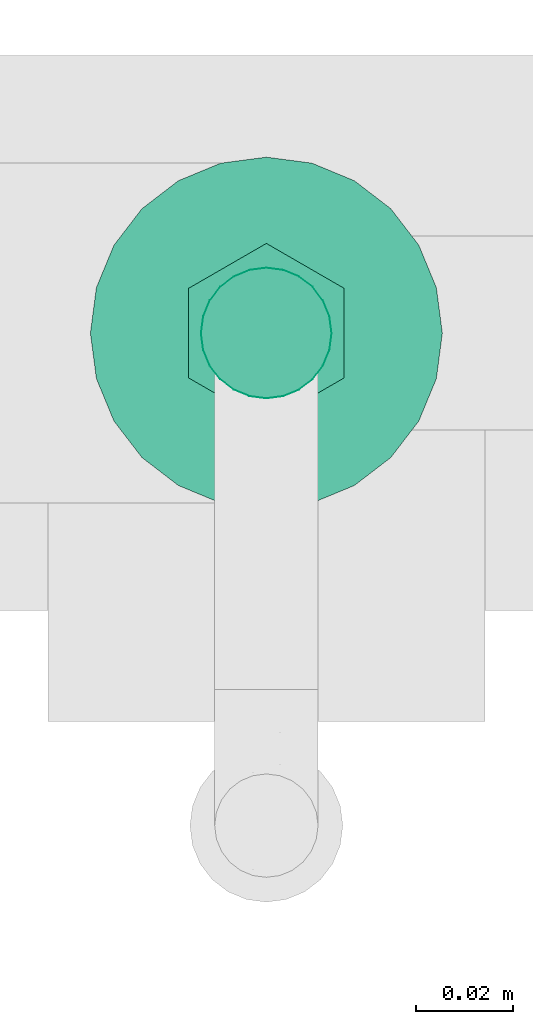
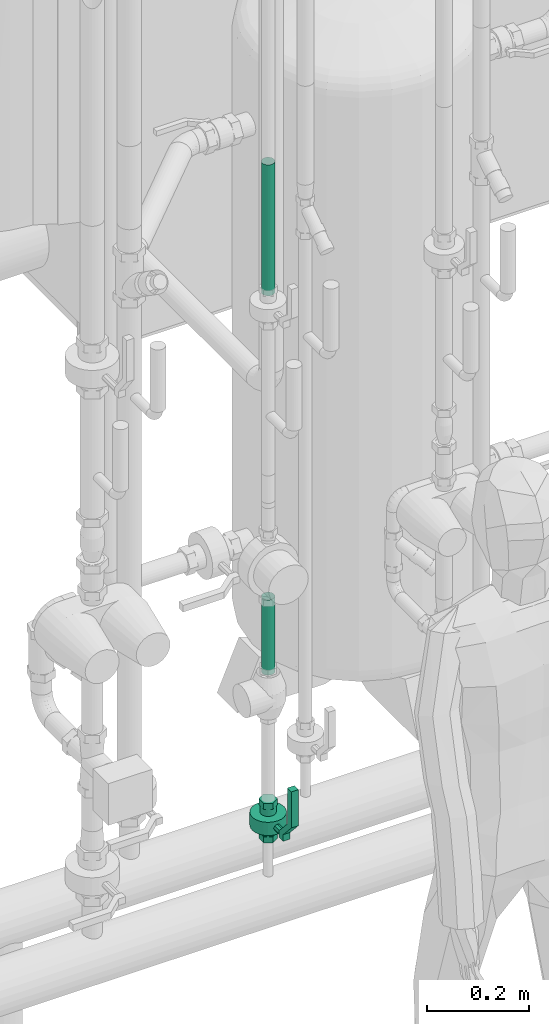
# One storey, part 269 of 374: 2 flow segments, 1 flow controller.
"""IFC2X3 building model written with IfcOpenShell, lengths in metres."""

from ifc_helpers import new_model, si_unit, direction, origin, place, context, subcontext, project, spatial, open_shell, surface_model, source, transform, mapped, element, save


model = new_model("IFC2X3")

# Units and contexts
model_context = context("Model", 3, precision=1e-05, world=origin(), true_north=direction((-0.4480736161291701, 0.8939966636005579)))
body_context = subcontext(model_context, "Body", "Model", "MODEL_VIEW")
ifc_project = project(units=[si_unit("LENGTHUNIT", "METRE"), si_unit("AREAUNIT", "SQUARE_METRE"), si_unit("VOLUMEUNIT", "CUBIC_METRE"), si_unit("PLANEANGLEUNIT", "RADIAN"), si_unit("THERMODYNAMICTEMPERATUREUNIT", "KELVIN"), si_unit("MASSUNIT", "GRAM", prefix="KILO"), si_unit("TIMEUNIT", "SECOND")], contexts=[model_context])

# Site, building, storey
site_placement = place(None, origin())
site = spatial("IfcSite", under=ifc_project, at=site_placement, Name="Site 1", CompositionType="ELEMENT")
building_placement = place(site_placement, origin())
building = spatial("IfcBuilding", under=site, at=building_placement, Name="Undefined", CompositionType="ELEMENT")
storey_placement = place(building_placement, origin())
storey = spatial("IfcBuildingStorey", under=building, at=storey_placement, Name="Rez de chauss\x8ee", CompositionType="ELEMENT", Elevation=0.0)

# Flow controller
shared_shape_1 = source(origin(), body_context, "Body", "SurfaceModel", [
    surface_model("IfcFaceBasedSurfaceModel", [(0.0, 0.015999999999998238, 0.0), (0.0, 0.0, 0.0), (0.016000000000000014, 0.0, 0.0), (0.016000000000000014, 0.015999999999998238, 0.0), (0.0, 0.0, 0.016000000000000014), (0.016000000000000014, 0.0, 0.016000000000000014), (0.0, 0.015999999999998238, 0.016000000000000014), (0.016000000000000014, 0.015999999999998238, 0.016000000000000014), (0.0, 0.051333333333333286, 0.04800000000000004), (0.016000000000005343, 0.051333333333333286, 0.04800000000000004), (0.0, 0.13800000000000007, 0.04800000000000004), (0.016000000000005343, 0.13800000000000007, 0.04800000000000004), (0.0, 0.13800000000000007, 0.03200000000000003), (0.016000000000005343, 0.13800000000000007, 0.03200000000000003), (0.0, 0.051333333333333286, 0.03200000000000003), (0.016000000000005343, 0.051333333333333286, 0.03200000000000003), (0.02400000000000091, -0.03950000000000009, -0.06623760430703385), (0.02400000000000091, -0.03950000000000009, -0.04776239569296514), (0.02400000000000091, -0.025000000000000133, -0.04776239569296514), (0.02400000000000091, -0.025000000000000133, -0.06623760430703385), (0.008000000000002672, -0.03950000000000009, -0.07547520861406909), (0.008000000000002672, -0.025000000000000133, -0.07547520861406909), (-0.007999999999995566, -0.03950000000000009, -0.06623760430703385), (-0.007999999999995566, -0.025000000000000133, -0.06623760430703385), (-0.007999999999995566, -0.03950000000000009, -0.04776239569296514), (-0.007999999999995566, -0.025000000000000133, -0.04776239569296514), (0.008000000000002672, -0.03950000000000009, -0.03852479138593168), (0.008000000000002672, -0.025000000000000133, -0.03852479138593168), (-0.007999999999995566, -0.025000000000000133, -0.057000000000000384), (-0.007454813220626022, -0.025000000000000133, -0.05285889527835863), (-0.007454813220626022, -0.007833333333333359, -0.05285889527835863), (-0.007999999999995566, -0.007833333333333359, -0.057000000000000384), (-0.005856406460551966, -0.025000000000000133, -0.04899999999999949), (-0.005856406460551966, -0.007833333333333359, -0.04899999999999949), (-0.0033137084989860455, -0.025000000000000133, -0.04568629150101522), (-0.0033137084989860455, -0.007833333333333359, -0.04568629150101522), (0.0, -0.025000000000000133, -0.0431435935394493), (0.0, -0.007833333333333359, -0.0431435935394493), (0.003858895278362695, -0.025000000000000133, -0.04154518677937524), (0.003858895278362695, -0.007833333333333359, -0.04154518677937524), (0.008000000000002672, -0.025000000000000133, -0.04100000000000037), (0.008000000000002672, -0.007833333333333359, -0.04100000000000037), (0.012141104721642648, -0.025000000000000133, -0.04154518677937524), (0.012141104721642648, -0.007833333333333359, -0.04154518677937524), (0.016000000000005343, -0.025000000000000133, -0.0431435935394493), (0.016000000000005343, -0.007833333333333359, -0.0431435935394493), (0.01931370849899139, -0.025000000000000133, -0.04568629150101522), (0.01931370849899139, -0.007833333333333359, -0.04568629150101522), (0.02185640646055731, -0.025000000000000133, -0.04899999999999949), (0.02185640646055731, -0.007833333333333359, -0.04899999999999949), (0.023454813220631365, -0.025000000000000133, -0.05285889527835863), (0.023454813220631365, -0.007833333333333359, -0.05285889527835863), (0.02400000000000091, -0.025000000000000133, -0.057000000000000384), (0.02400000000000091, -0.007833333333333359, -0.057000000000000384), (0.023454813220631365, -0.025000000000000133, -0.06114110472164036), (0.023454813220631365, -0.007833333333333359, -0.06114110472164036), (0.02185640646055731, -0.025000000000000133, -0.0649999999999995), (0.02185640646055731, -0.007833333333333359, -0.0649999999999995), (0.01931370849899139, -0.025000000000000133, -0.06831370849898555), (0.01931370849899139, -0.007833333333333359, -0.06831370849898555), (0.016000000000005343, -0.025000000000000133, -0.07085640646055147), (0.016000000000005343, -0.007833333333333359, -0.07085640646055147), (0.012141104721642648, -0.025000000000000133, -0.07245481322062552), (0.012141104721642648, -0.007833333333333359, -0.07245481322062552), (0.008000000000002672, -0.025000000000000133, -0.0730000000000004), (0.008000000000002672, -0.007833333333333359, -0.0730000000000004), (0.003858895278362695, -0.025000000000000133, -0.07245481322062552), (0.003858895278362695, -0.007833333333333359, -0.07245481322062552), (0.0, -0.025000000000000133, -0.07085640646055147), (0.0, -0.007833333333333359, -0.07085640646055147), (-0.0033137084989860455, -0.025000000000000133, -0.06831370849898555), (-0.0033137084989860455, -0.007833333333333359, -0.06831370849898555), (-0.005856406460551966, -0.025000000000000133, -0.0649999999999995), (-0.005856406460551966, -0.007833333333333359, -0.0649999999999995), (-0.007454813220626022, -0.025000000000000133, -0.06114110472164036), (-0.007454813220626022, -0.007833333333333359, -0.06114110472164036), (-0.028249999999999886, -0.007833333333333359, -0.057000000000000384), (-0.027014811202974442, -0.007833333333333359, -0.04761780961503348), (-0.027014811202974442, 0.02383333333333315, -0.04761780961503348), (-0.028249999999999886, 0.02383333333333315, -0.057000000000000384), (-0.02339342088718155, -0.007833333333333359, -0.038874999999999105), (-0.02339342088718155, 0.02383333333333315, -0.038874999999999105), (-0.017632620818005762, -0.007833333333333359, -0.03136737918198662), (-0.017632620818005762, 0.02383333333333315, -0.03136737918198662), (-0.010124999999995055, -0.007833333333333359, -0.025606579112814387), (-0.010124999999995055, 0.02383333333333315, -0.025606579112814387), (-0.0013821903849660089, -0.007833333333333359, -0.021985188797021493), (-0.0013821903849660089, 0.02383333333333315, -0.021985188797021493), (0.008000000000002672, -0.007833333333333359, -0.020749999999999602), (0.008000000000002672, 0.02383333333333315, -0.020749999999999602), (0.017382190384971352, -0.007833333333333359, -0.021985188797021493), (0.017382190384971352, 0.02383333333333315, -0.021985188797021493), (0.026125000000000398, -0.007833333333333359, -0.025606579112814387), (0.026125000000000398, 0.02383333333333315, -0.025606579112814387), (0.033632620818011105, -0.007833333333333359, -0.03136737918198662), (0.033632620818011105, 0.02383333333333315, -0.03136737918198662), (0.03939342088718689, -0.007833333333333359, -0.038874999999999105), (0.03939342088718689, 0.02383333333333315, -0.038874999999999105), (0.043014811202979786, -0.007833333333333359, -0.04761780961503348), (0.043014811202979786, 0.02383333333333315, -0.04761780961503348), (0.04425000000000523, -0.007833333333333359, -0.057000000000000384), (0.04425000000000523, 0.02383333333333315, -0.057000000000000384), (0.043014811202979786, -0.007833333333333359, -0.06638219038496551), (0.043014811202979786, 0.02383333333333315, -0.06638219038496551), (0.03939342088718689, -0.007833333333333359, -0.07512499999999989), (0.03939342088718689, 0.02383333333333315, -0.07512499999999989), (0.033632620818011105, -0.007833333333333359, -0.08263262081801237), (0.033632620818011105, 0.02383333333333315, -0.08263262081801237), (0.026125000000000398, -0.007833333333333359, -0.0883934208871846), (0.026125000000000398, 0.02383333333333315, -0.0883934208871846), (0.017382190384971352, -0.007833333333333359, -0.0920148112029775), (0.017382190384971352, 0.02383333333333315, -0.0920148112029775), (0.008000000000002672, -0.007833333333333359, -0.09324999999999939), (0.008000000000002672, 0.02383333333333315, -0.09324999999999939), (-0.0013821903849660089, -0.007833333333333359, -0.0920148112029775), (-0.0013821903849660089, 0.02383333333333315, -0.0920148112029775), (-0.010124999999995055, -0.007833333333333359, -0.0883934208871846), (-0.010124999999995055, 0.02383333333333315, -0.0883934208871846), (-0.017632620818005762, -0.007833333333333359, -0.08263262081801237), (-0.017632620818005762, 0.02383333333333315, -0.08263262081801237), (-0.02339342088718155, -0.007833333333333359, -0.07512499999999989), (-0.02339342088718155, 0.02383333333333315, -0.07512499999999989), (-0.027014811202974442, -0.007833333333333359, -0.06638219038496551), (-0.027014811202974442, 0.02383333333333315, -0.06638219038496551), (0.008000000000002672, -0.007833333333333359, -0.057000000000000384), (0.008000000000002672, 0.02383333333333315, -0.057000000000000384), (-0.007999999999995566, 0.02383333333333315, -0.057000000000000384), (-0.007454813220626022, 0.02383333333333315, -0.05285889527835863), (-0.007454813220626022, 0.040999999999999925, -0.05285889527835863), (-0.007999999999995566, 0.040999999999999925, -0.057000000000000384), (-0.005856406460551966, 0.02383333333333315, -0.04899999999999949), (-0.005856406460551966, 0.040999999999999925, -0.04899999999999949), (-0.0033137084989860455, 0.02383333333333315, -0.04568629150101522), (-0.0033137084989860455, 0.040999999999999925, -0.04568629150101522), (0.0, 0.02383333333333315, -0.0431435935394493), (0.0, 0.040999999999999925, -0.0431435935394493), (0.003858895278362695, 0.02383333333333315, -0.04154518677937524), (0.003858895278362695, 0.040999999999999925, -0.04154518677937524), (0.008000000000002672, 0.02383333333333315, -0.04100000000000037), (0.008000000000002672, 0.040999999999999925, -0.04100000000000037), (0.012141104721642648, 0.02383333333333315, -0.04154518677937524), (0.012141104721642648, 0.040999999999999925, -0.04154518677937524), (0.016000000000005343, 0.02383333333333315, -0.0431435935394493), (0.016000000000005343, 0.040999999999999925, -0.0431435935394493), (0.01931370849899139, 0.02383333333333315, -0.04568629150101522), (0.01931370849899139, 0.040999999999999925, -0.04568629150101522), (0.02185640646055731, 0.02383333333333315, -0.04899999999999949), (0.02185640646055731, 0.040999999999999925, -0.04899999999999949), (0.023454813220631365, 0.02383333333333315, -0.05285889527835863), (0.023454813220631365, 0.040999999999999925, -0.05285889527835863), (0.02400000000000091, 0.02383333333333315, -0.057000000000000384), (0.02400000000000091, 0.040999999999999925, -0.057000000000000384), (0.023454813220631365, 0.02383333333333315, -0.06114110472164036), (0.023454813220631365, 0.040999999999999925, -0.06114110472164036), (0.02185640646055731, 0.02383333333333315, -0.0649999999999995), (0.02185640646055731, 0.040999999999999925, -0.0649999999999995), (0.01931370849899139, 0.02383333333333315, -0.06831370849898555), (0.01931370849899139, 0.040999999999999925, -0.06831370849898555), (0.016000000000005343, 0.02383333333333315, -0.07085640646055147), (0.016000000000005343, 0.040999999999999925, -0.07085640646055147), (0.012141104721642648, 0.02383333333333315, -0.07245481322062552), (0.012141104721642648, 0.040999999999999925, -0.07245481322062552), (0.008000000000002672, 0.02383333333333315, -0.0730000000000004), (0.008000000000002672, 0.040999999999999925, -0.0730000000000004), (0.003858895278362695, 0.02383333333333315, -0.07245481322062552), (0.003858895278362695, 0.040999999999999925, -0.07245481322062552), (0.0, 0.02383333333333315, -0.07085640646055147), (0.0, 0.040999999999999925, -0.07085640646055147), (-0.0033137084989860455, 0.02383333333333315, -0.06831370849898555), (-0.0033137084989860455, 0.040999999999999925, -0.06831370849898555), (-0.005856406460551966, 0.02383333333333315, -0.0649999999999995), (-0.005856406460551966, 0.040999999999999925, -0.0649999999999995), (-0.007454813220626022, 0.02383333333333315, -0.06114110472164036), (-0.007454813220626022, 0.040999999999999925, -0.06114110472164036), (0.02400000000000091, 0.040999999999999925, -0.06623760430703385), (0.02400000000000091, 0.040999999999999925, -0.04776239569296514), (0.02400000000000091, 0.05549999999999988, -0.04776239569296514), (0.02400000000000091, 0.05549999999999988, -0.06623760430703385), (0.008000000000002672, 0.040999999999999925, -0.07547520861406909), (0.008000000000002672, 0.05549999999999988, -0.07547520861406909), (-0.007999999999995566, 0.040999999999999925, -0.06623760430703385), (-0.007999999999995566, 0.05549999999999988, -0.06623760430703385), (-0.007999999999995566, 0.040999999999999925, -0.04776239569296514), (-0.007999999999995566, 0.05549999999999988, -0.04776239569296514), (0.008000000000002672, 0.040999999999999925, -0.03852479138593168), (0.008000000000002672, 0.05549999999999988, -0.03852479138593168), (0.008000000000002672, 0.015999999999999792, -0.057000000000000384), (0.002343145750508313, 0.013656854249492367, -0.057000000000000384), (0.002343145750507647, 0.013656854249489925, 0.0), (0.008000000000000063, 0.015999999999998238, 0.0), (0.0, 0.007999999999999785, -0.057000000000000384), (0.0, 0.008, 0.0), (0.002343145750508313, 0.002343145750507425, -0.057000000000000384), (0.002343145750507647, 0.002343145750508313, 0.0), (0.008000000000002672, 0.0, -0.057000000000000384), (0.008000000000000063, 0.0, 0.0), (0.01365685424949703, 0.002343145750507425, -0.057000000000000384), (0.013656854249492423, 0.002343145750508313, 0.0), (0.016000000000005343, 0.007999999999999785, -0.057000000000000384), (0.016000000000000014, 0.008000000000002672, 0.0), (0.01365685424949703, 0.013656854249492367, -0.057000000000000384), (0.013656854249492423, 0.013656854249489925, 0.0)], [open_shell([[[0, 1, 2, 3]], [[1, 4, 5, 2]], [[4, 6, 7, 5]], [[6, 8, 9, 7]], [[8, 10, 11, 9]], [[10, 12, 13, 11]], [[12, 14, 15, 13]], [[14, 0, 3, 15]], [[3, 7, 2]], [[7, 3, 9]], [[15, 9, 3]], [[9, 15, 11]], [[13, 11, 15]], [[5, 2, 7]], [[1, 6, 0]], [[8, 0, 6]], [[0, 8, 14]], [[10, 14, 8]], [[14, 10, 12]], [[6, 1, 4]], [[16, 17, 18, 19]], [[20, 16, 19, 21]], [[22, 20, 21, 23]], [[24, 22, 23, 25]], [[26, 24, 25, 27]], [[17, 26, 27, 18]], [[17, 16, 20]], [[17, 20, 22]], [[17, 22, 24]], [[17, 24, 26]], [[18, 21, 19]], [[18, 23, 21]], [[18, 25, 23]], [[18, 27, 25]], [[28, 29, 30, 31]], [[29, 32, 33, 30]], [[32, 34, 35, 33]], [[34, 36, 37, 35]], [[36, 38, 39, 37]], [[38, 40, 41, 39]], [[40, 42, 43, 41]], [[42, 44, 45, 43]], [[44, 46, 47, 45]], [[46, 48, 49, 47]], [[48, 50, 51, 49]], [[50, 52, 53, 51]], [[52, 54, 55, 53]], [[54, 56, 57, 55]], [[56, 58, 59, 57]], [[58, 60, 61, 59]], [[60, 62, 63, 61]], [[62, 64, 65, 63]], [[64, 66, 67, 65]], [[66, 68, 69, 67]], [[68, 70, 71, 69]], [[70, 72, 73, 71]], [[72, 74, 75, 73]], [[74, 28, 31, 75]], [[76, 77, 78, 79]], [[77, 80, 81, 78]], [[80, 82, 83, 81]], [[82, 84, 85, 83]], [[84, 86, 87, 85]], [[86, 88, 89, 87]], [[88, 90, 91, 89]], [[90, 92, 93, 91]], [[92, 94, 95, 93]], [[94, 96, 97, 95]], [[96, 98, 99, 97]], [[98, 100, 101, 99]], [[100, 102, 103, 101]], [[102, 104, 105, 103]], [[104, 106, 107, 105]], [[106, 108, 109, 107]], [[108, 110, 111, 109]], [[110, 112, 113, 111]], [[112, 114, 115, 113]], [[114, 116, 117, 115]], [[116, 118, 119, 117]], [[118, 120, 121, 119]], [[120, 122, 123, 121]], [[122, 76, 79, 123]], [[124, 77, 76]], [[124, 80, 77]], [[124, 82, 80]], [[124, 84, 82]], [[124, 86, 84]], [[124, 88, 86]], [[124, 90, 88]], [[124, 92, 90]], [[124, 94, 92]], [[124, 96, 94]], [[124, 98, 96]], [[124, 100, 98]], [[124, 102, 100]], [[124, 104, 102]], [[124, 106, 104]], [[124, 108, 106]], [[124, 110, 108]], [[124, 112, 110]], [[124, 114, 112]], [[124, 116, 114]], [[124, 118, 116]], [[124, 120, 118]], [[124, 122, 120]], [[124, 76, 122]], [[125, 123, 79]], [[125, 121, 123]], [[125, 119, 121]], [[125, 117, 119]], [[125, 115, 117]], [[125, 113, 115]], [[125, 111, 113]], [[125, 109, 111]], [[125, 107, 109]], [[125, 105, 107]], [[125, 103, 105]], [[125, 101, 103]], [[125, 99, 101]], [[125, 97, 99]], [[125, 95, 97]], [[125, 93, 95]], [[125, 91, 93]], [[125, 89, 91]], [[125, 87, 89]], [[125, 85, 87]], [[125, 83, 85]], [[125, 81, 83]], [[125, 78, 81]], [[125, 79, 78]], [[126, 127, 128, 129]], [[127, 130, 131, 128]], [[130, 132, 133, 131]], [[132, 134, 135, 133]], [[134, 136, 137, 135]], [[136, 138, 139, 137]], [[138, 140, 141, 139]], [[140, 142, 143, 141]], [[142, 144, 145, 143]], [[144, 146, 147, 145]], [[146, 148, 149, 147]], [[148, 150, 151, 149]], [[150, 152, 153, 151]], [[152, 154, 155, 153]], [[154, 156, 157, 155]], [[156, 158, 159, 157]], [[158, 160, 161, 159]], [[160, 162, 163, 161]], [[162, 164, 165, 163]], [[164, 166, 167, 165]], [[166, 168, 169, 167]], [[168, 170, 171, 169]], [[170, 172, 173, 171]], [[172, 126, 129, 173]], [[174, 175, 176, 177]], [[178, 174, 177, 179]], [[180, 178, 179, 181]], [[182, 180, 181, 183]], [[184, 182, 183, 185]], [[175, 184, 185, 176]], [[175, 174, 178]], [[175, 178, 180]], [[175, 180, 182]], [[175, 182, 184]], [[176, 179, 177]], [[176, 181, 179]], [[176, 183, 181]], [[176, 185, 183]], [[186, 187, 188, 189]], [[187, 190, 191, 188]], [[190, 192, 193, 191]], [[192, 194, 195, 193]], [[194, 196, 197, 195]], [[196, 198, 199, 197]], [[198, 200, 201, 199]], [[200, 186, 189, 201]]])]),
])
flow_controller_placement = place(storey_placement, origin())
element("IfcFlowController", 1, at=flow_controller_placement, inside=storey, Name="Robinet à boisseau sphérique", ObjectType="Robinet à boisseau sphérique", context=body_context, shape_type="MappedRepresentation", body=[
    mapped(shared_shape_1, transform((52.849562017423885, 10.661037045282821, 0.4821500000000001), x_axis=(1.0, 0.0, 0.0), y_axis=(0.0, 0.0, 1.0), z_axis=(0.0, -1.0, 0.0))),
])

# Flow segments
shared_shape_2 = source(origin(), body_context, "Body", "SurfaceModel", [
    surface_model("IfcFaceBasedSurfaceModel", [(0.0, 0.0035111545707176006, 0.0), (0.0, 0.0, 0.0), (0.18103703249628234, 0.0, 4.4408921e-16), (0.18103703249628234, 0.003511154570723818, -1.33226763e-15), (0.0, -0.003391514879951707, -0.0009087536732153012), (0.18103703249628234, -0.0033915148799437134, -0.000908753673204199), (0.0, -0.006432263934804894, -0.0026643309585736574), (0.18103703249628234, -0.006432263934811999, -0.0026643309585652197), (0.0, -0.00891502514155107, -0.005147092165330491), (0.18103703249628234, -0.008915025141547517, -0.005147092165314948), (0.0, -0.010670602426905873, -0.008187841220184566), (0.18103703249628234, -0.010670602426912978, -0.008187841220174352), (0.0, -0.011579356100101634, -0.01157935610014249), (0.18103703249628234, -0.011579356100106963, -0.011579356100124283), (0.0, -0.011579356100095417, -0.015090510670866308), (0.18103703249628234, -0.011579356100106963, -0.01509051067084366), (0.0, -0.010670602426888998, -0.018482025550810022), (0.18103703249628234, -0.010670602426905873, -0.01848202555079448), (0.0, -0.008915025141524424, -0.021522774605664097), (0.18103703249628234, -0.008915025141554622, -0.02152277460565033), (0.0, -0.006432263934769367, -0.02400553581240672), (0.18103703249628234, -0.006432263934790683, -0.02400553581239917), (0.0, -0.0033915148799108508, -0.025761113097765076), (0.18103703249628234, -0.0033915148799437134, -0.02576111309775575), (0.0, 4.2632564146e-14, -0.026669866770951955), (0.18103703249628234, 1.4210854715e-14, -0.026669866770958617), (0.0, 0.0035111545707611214, -0.026669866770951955), (0.18103703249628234, 0.0035111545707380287, -0.026669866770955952), (0.0, 0.006902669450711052, -0.02576111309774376), (0.18103703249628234, 0.006902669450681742, -0.025761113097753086), (0.0, 0.00994341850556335, -0.024005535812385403), (0.18103703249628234, 0.009943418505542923, -0.02400553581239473), (0.0, 0.012426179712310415, -0.02152277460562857), (0.18103703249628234, 0.012426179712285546, -0.021522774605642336), (0.0, 0.014181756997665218, -0.018482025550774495), (0.18103703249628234, 0.014181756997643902, -0.01848202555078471), (0.0, 0.015090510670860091, -0.01509051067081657), (0.18103703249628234, 0.015090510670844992, -0.015090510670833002), (0.0, 0.015090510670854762, -0.011579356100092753), (0.18103703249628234, 0.015090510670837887, -0.011579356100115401), (0.0, 0.014181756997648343, -0.00818784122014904), (0.18103703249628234, 0.014181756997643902, -0.008187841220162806), (0.0, 0.012426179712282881, -0.005147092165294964), (0.18103703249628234, 0.012426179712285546, -0.005147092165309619), (0.0, 0.009943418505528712, -0.002664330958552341), (0.18103703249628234, 0.009943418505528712, -0.0026643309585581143), (0.0, 0.006902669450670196, -0.0009087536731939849), (0.18103703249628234, 0.006902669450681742, -0.0009087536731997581)], [open_shell([[[0, 1, 2, 3]], [[1, 4, 5, 2]], [[4, 6, 7, 5]], [[6, 8, 9, 7]], [[8, 10, 11, 9]], [[10, 12, 13, 11]], [[12, 14, 15, 13]], [[14, 16, 17, 15]], [[16, 18, 19, 17]], [[18, 20, 21, 19]], [[20, 22, 23, 21]], [[22, 24, 25, 23]], [[24, 26, 27, 25]], [[26, 28, 29, 27]], [[28, 30, 31, 29]], [[30, 32, 33, 31]], [[32, 34, 35, 33]], [[34, 36, 37, 35]], [[36, 38, 39, 37]], [[38, 40, 41, 39]], [[40, 42, 43, 41]], [[42, 44, 45, 43]], [[44, 46, 47, 45]], [[46, 0, 3, 47]]])]),
])
flow_segment_1_placement = place(storey_placement, origin())
element("IfcFlowSegment", 2, at=flow_segment_1_placement, inside=storey, Name="Tube acier d'après DIN 2448", ObjectType="Tube acier d'après DIN 2448", context=body_context, shape_type="MappedRepresentation", body=[
    mapped(shared_shape_2, transform((52.86104313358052, 10.705045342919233, 0.8434629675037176), x_axis=(0.0, 0.0, 1.0), y_axis=(-0.9914448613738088, -0.13052619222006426, 0.0), z_axis=(0.13052619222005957, -0.9914448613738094, 0.0))),
])
shared_shape_3 = source(origin(), body_context, "Body", "SurfaceModel", [
    surface_model("IfcFaceBasedSurfaceModel", [(0.0, 0.0035111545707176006, 0.0), (0.0, 0.0, 0.0), (0.31453882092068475, 1.776356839e-15, 7.105427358e-15), (0.31453882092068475, 0.003511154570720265, 7.105427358e-15), (0.0, -0.003391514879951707, -0.0009087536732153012), (0.31453882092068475, -0.0033915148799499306, -0.0009087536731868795), (0.0, -0.006432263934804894, -0.0026643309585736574), (0.31453882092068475, -0.00643226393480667, -0.0026643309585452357), (0.0, -0.00891502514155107, -0.005147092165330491), (0.31453882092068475, -0.008915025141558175, -0.00514709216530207), (0.0, -0.010670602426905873, -0.008187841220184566), (0.31453882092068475, -0.01067060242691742, -0.00818784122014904), (0.0, -0.011579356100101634, -0.01157935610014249), (0.31453882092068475, -0.01157935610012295, -0.011579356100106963), (0.0, -0.011579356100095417, -0.015090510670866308), (0.31453882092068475, -0.01157935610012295, -0.015090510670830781), (0.0, -0.010670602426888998, -0.018482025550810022), (0.31453882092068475, -0.010670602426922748, -0.01848202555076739), (0.0, -0.008915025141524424, -0.021522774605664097), (0.31453882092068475, -0.008915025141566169, -0.021522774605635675), (0.0, -0.006432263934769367, -0.02400553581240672), (0.31453882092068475, -0.006432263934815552, -0.024005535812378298), (0.0, -0.0033915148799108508, -0.025761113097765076), (0.31453882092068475, -0.0033915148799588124, -0.02576111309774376), (0.0, 4.2632564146e-14, -0.026669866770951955), (0.31453882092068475, -9.769962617e-15, -0.02666986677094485), (0.0, 0.0035111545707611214, -0.026669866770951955), (0.31453882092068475, 0.003511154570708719, -0.026669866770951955), (0.0, 0.006902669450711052, -0.02576111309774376), (0.31453882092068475, 0.006902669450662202, -0.02576111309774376), (0.0, 0.00994341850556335, -0.024005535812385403), (0.31453882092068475, 0.009943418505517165, -0.02400553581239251), (0.0, 0.012426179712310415, -0.02152277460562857), (0.31453882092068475, 0.012426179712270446, -0.021522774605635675), (0.0, 0.014181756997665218, -0.018482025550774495), (0.31453882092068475, 0.014181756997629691, -0.018482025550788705), (0.0, 0.015090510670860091, -0.01509051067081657), (0.31453882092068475, 0.015090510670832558, -0.015090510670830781), (0.0, 0.015090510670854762, -0.011579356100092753), (0.31453882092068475, 0.015090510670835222, -0.011579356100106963), (0.0, 0.014181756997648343, -0.00818784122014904), (0.31453882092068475, 0.01418175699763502, -0.008187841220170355), (0.0, 0.012426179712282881, -0.005147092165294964), (0.31453882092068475, 0.012426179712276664, -0.00514709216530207), (0.0, 0.009943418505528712, -0.002664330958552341), (0.31453882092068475, 0.009943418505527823, -0.002664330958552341), (0.0, 0.006902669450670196, -0.0009087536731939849), (0.31453882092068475, 0.006902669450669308, -0.0009087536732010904)], [open_shell([[[0, 1, 2, 3]], [[1, 4, 5, 2]], [[4, 6, 7, 5]], [[6, 8, 9, 7]], [[8, 10, 11, 9]], [[10, 12, 13, 11]], [[12, 14, 15, 13]], [[14, 16, 17, 15]], [[16, 18, 19, 17]], [[18, 20, 21, 19]], [[20, 22, 23, 21]], [[22, 24, 25, 23]], [[24, 26, 27, 25]], [[26, 28, 29, 27]], [[28, 30, 31, 29]], [[30, 32, 33, 31]], [[32, 34, 35, 33]], [[34, 36, 37, 35]], [[36, 38, 39, 37]], [[38, 40, 41, 39]], [[40, 42, 43, 41]], [[42, 44, 45, 43]], [[44, 46, 47, 45]], [[46, 0, 3, 47]]])]),
])
flow_segment_2_placement = place(storey_placement, origin())
element("IfcFlowSegment", 3, at=flow_segment_2_placement, inside=storey, Name="Tube acier d'après DIN 2448", ObjectType="Tube acier d'après DIN 2448", context=body_context, shape_type="MappedRepresentation", body=[
    mapped(shared_shape_3, transform((52.87055371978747, 10.72151816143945, 1.7549890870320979), x_axis=(0.0, 0.0, 1.0), y_axis=(0.13052619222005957, -0.9914448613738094, 0.0), z_axis=(0.9914448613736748, 0.13052619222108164, 0.0))),
])

save(model, "model.ifc")
